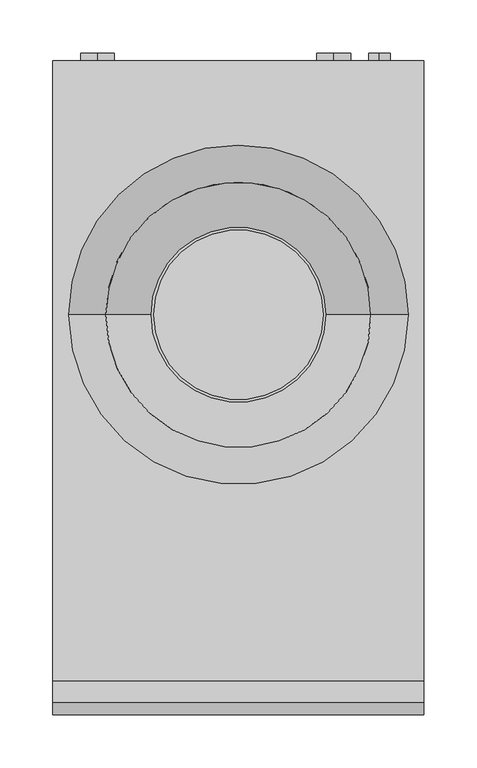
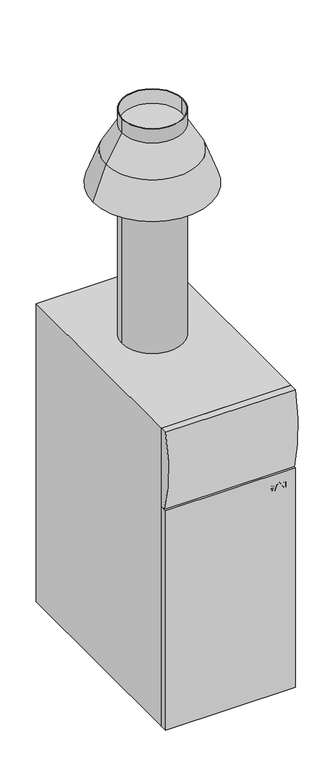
"""IFC4 building model written with IfcOpenShell, lengths in millimetres: proxy geometry, BAXI_ГазовыйКотел_Slim-iN : BAXI_Газовый котел_Slim_1.490_iN."""

import ifcopenshell
import ifcopenshell.guid

model = None  # the IFC model being written
_history = None  # IfcOwnerHistory: only IFC2X3 demands one
_inside = {}  # id of a spatial element -> (the spatial element, [elements in it])
_under = {}  # id of a project, library or spatial element -> (it, [spatial elements below it])
_declared = {}  # id of a project -> (the project, [libraries it declares])
_typed = {}  # id of a type object -> (the type object, [elements of that type])
_made_of = {}  # id of a material, layer set ... -> (it, [elements and type objects made of it])


def new_model(schema):
    """Start an empty IFC model of exactly this schema.

    Asked for "IFC4X3", IfcOpenShell would pick the latest addendum, in which some entities
    have other attributes; the version numbers below select the first issue.
    IFC2X3 requires an IfcOwnerHistory on every rooted entity: one is made here for all.
    """
    global model, _history
    if schema == "IFC4X3":
        model = ifcopenshell.file(schema_version=(4, 3, 0, 0))
    else:
        model = ifcopenshell.file(schema=schema)
    _inside.clear()
    _under.clear()
    _declared.clear()
    _typed.clear()
    _made_of.clear()
    _history = None
    if model.schema == "IFC2X3":
        org = make("IfcOrganization", Name="unknown")
        user = make(
            "IfcPersonAndOrganization",
            ThePerson=make("IfcPerson", FamilyName="unknown"),
            TheOrganization=org,
        )
        app = make(
            "IfcApplication",
            ApplicationDeveloper=org,
            Version="unknown",
            ApplicationFullName="unknown",
            ApplicationIdentifier="unknown",
        )
        _history = make(
            "IfcOwnerHistory",
            OwningUser=user,
            OwningApplication=app,
            ChangeAction="ADDED",
            CreationDate=0,
        )
    return model


def make(cls, **values):
    """One entity of the class cls with the attributes given. An attribute that is None is left unset."""
    return model.create_entity(
        cls, **{name: value for name, value in values.items() if value is not None}
    )


def rooted(cls, **values):
    """An entity with a GlobalId (a new one), such as an element, a storey or a relation."""
    return make(cls, GlobalId=ifcopenshell.guid.new(), OwnerHistory=_history, **values)


def si_unit(unit_type, name, prefix=None):
    """IfcSIUnit, for example si_unit("LENGTHUNIT", "METRE", prefix="MILLI")."""
    return make("IfcSIUnit", UnitType=unit_type, Prefix=prefix, Name=name)


def assignment(units):
    """IfcUnitAssignment: the units of a project."""
    return None if units is None else make("IfcUnitAssignment", Units=units)


def point(xyz):
    """IfcCartesianPoint."""
    return None if xyz is None else make("IfcCartesianPoint", Coordinates=xyz)


def direction(xyz):
    """IfcDirection."""
    return None if xyz is None else make("IfcDirection", DirectionRatios=xyz)


def frame(location, z_axis=None, x_axis=None):
    """IfcAxis2Placement3D, a coordinate frame: its origin and axes. An axis left out is left unset."""
    return make(
        "IfcAxis2Placement3D",
        Location=point(location),
        Axis=direction(z_axis),
        RefDirection=direction(x_axis),
    )


def frame_2d(location, x_axis=None):
    """IfcAxis2Placement2D, a coordinate frame in the plane: its origin and x axis."""
    return make(
        "IfcAxis2Placement2D", Location=point(location), RefDirection=direction(x_axis)
    )


def origin():
    """The frame at (0, 0, 0) with its axes left unset."""
    return frame((0.0, 0.0, 0.0))


def origin_with_axes():
    """The frame at (0, 0, 0) with the z axis (0, 0, 1) and the x axis (1, 0, 0) written out."""
    return frame((0.0, 0.0, 0.0), z_axis=(0.0, 0.0, 1.0), x_axis=(1.0, 0.0, 0.0))


def place(relative_to, where):
    """IfcLocalPlacement: puts the frame where relative to a parent placement (None: the world)."""
    return make(
        "IfcLocalPlacement", PlacementRelTo=relative_to, RelativePlacement=where
    )


def context(
    kind, dimensions, precision=None, world=None, true_north=None, identifier=None
):
    """IfcGeometricRepresentationContext, for example the 3D "Model" context."""
    return make(
        "IfcGeometricRepresentationContext",
        ContextIdentifier=identifier,
        ContextType=kind,
        CoordinateSpaceDimension=dimensions,
        Precision=precision,
        WorldCoordinateSystem=world,
        TrueNorth=true_north,
    )


def project(units=None, contexts=None):
    """IfcProject with its units and contexts."""
    return rooted(
        "IfcProject",
        Name="project",
        RepresentationContexts=contexts,
        UnitsInContext=assignment(units),
    )


def spatial(cls, under=None, at=None, **own):
    """A site, building, storey or space (cls), placed at a placement, below another one or the project."""
    s = rooted(cls, ObjectPlacement=at, **own)
    if under is not None:
        _under.setdefault(under.id(), (under, []))[1].append(s)
    return s


def polyline(points):
    """IfcPolyline through the points."""
    return make("IfcPolyline", Points=[point(p) for p in points])


def circle_curve(where, radius):
    """IfcCircle in the frame where."""
    return make("IfcCircle", Position=where, Radius=radius)


def trimmed(basis, trim1, trim2, sense, master):
    """IfcTrimmedCurve: the piece of a basis curve between two trims."""
    return make(
        "IfcTrimmedCurve",
        BasisCurve=basis,
        Trim1=trim1,
        Trim2=trim2,
        SenseAgreement=sense,
        MasterRepresentation=master,
    )


def segment(curve, same_sense, transition):
    """IfcCompositeCurveSegment."""
    return make(
        "IfcCompositeCurveSegment",
        Transition=transition,
        SameSense=same_sense,
        ParentCurve=curve,
    )


def composite_curve(segments, self_intersect=None):
    """IfcCompositeCurve: segments joined end to end."""
    return make("IfcCompositeCurve", Segments=segments, SelfIntersect=self_intersect)


def outline(outer, holes=None, kind="AREA"):
    """IfcArbitraryClosedProfileDef: a profile drawn as a closed curve; with holes, ...WithVoids."""
    if holes is None:
        return make("IfcArbitraryClosedProfileDef", ProfileType=kind, OuterCurve=outer)
    return make(
        "IfcArbitraryProfileDefWithVoids",
        ProfileType=kind,
        OuterCurve=outer,
        InnerCurves=holes,
    )


def extrude(swept, where, along, depth):
    """IfcExtrudedAreaSolid: the profile swept, set in the frame where, extruded along a direction by depth."""
    return make(
        "IfcExtrudedAreaSolid",
        SweptArea=swept,
        Position=where,
        ExtrudedDirection=direction(along),
        Depth=depth,
    )


def shape(context_of_items, identifier, shape_type, items):
    """IfcShapeRepresentation: the items that make up one representation, for example the "Body"."""
    return make(
        "IfcShapeRepresentation",
        ContextOfItems=context_of_items,
        RepresentationIdentifier=identifier,
        RepresentationType=shape_type,
        Items=items,
    )


def source(mapping_origin, context_of_items, identifier, shape_type, items):
    """IfcRepresentationMap: a shape defined once, which mapped items show again and again."""
    return make(
        "IfcRepresentationMap",
        MappingOrigin=mapping_origin,
        MappedRepresentation=shape(context_of_items, identifier, shape_type, items),
    )


def transform(
    local_origin,
    x_axis=None,
    y_axis=None,
    z_axis=None,
    scale=None,
    scale2=None,
    scale3=None,
    uniform=True,
):
    """IfcCartesianTransformationOperator3D, or its non-uniform kind. x_axis, y_axis, z_axis: its Axis1, 2, 3."""
    if uniform:
        return make(
            "IfcCartesianTransformationOperator3D",
            Axis1=direction(x_axis),
            Axis2=direction(y_axis),
            LocalOrigin=point(local_origin),
            Scale=scale,
            Axis3=direction(z_axis),
        )
    return make(
        "IfcCartesianTransformationOperator3DnonUniform",
        Axis1=direction(x_axis),
        Axis2=direction(y_axis),
        LocalOrigin=point(local_origin),
        Scale=scale,
        Axis3=direction(z_axis),
        Scale2=scale2,
        Scale3=scale3,
    )


def mapped(mapping_source, mapping_target):
    """IfcMappedItem: shows the shape of a source again, moved by a transform."""
    return make(
        "IfcMappedItem", MappingSource=mapping_source, MappingTarget=mapping_target
    )


def made_of(thing, what):
    """Note that an element or type object is made of a material, layer set ...; save() writes the relation."""
    if what is not None:
        _made_of.setdefault(what.id(), (what, []))[1].append(thing)
    return thing


def element(
    cls,
    number,
    at=None,
    inside=None,
    cuts=None,
    type_object=None,
    material=None,
    context=None,
    identifier="Body",
    shape_type=None,
    held_by="IfcProductDefinitionShape",
    body=None,
    shapes=None,
    **own,
):
    """One element of the class cls, such as IfcWall. Its Tag is "e" and its number.

    at: its placement. inside: the storey or other place that contains it. cuts: it is an
    opening in that element (IfcRelVoidsElement). A single representation is given by context,
    identifier, shape_type and body (its items); several are given by shapes. held_by: the class
    of the entity that holds the representations. save() writes the other relations.
    """
    e = rooted(cls, Tag="e%d" % number, ObjectPlacement=at, **own)
    if body is not None:
        shapes = [shape(context, identifier, shape_type, body)]
    if shapes is not None:
        e.Representation = make(held_by, Representations=shapes)
    if inside is not None:
        _inside.setdefault(inside.id(), (inside, []))[1].append(e)
    if cuts is not None:
        rooted(
            "IfcRelVoidsElement", RelatingBuildingElement=cuts, RelatedOpeningElement=e
        )
    if type_object is not None:
        _typed.setdefault(type_object.id(), (type_object, []))[1].append(e)
    return made_of(e, material)


def aggregate(whole, parts):
    """IfcRelAggregates: a whole, such as a stair, and the parts it consists of."""
    return rooted("IfcRelAggregates", RelatingObject=whole, RelatedObjects=parts)


def save(model, path):
    """Write the relations noted so far, then the file.

    IfcRelAggregates (storeys below a building ...), IfcRelContainedInSpatialStructure (elements
    in a storey), IfcRelDefinesByType, IfcRelAssociatesMaterial and IfcRelDeclares: one each for
    every whole, place, type object, material and project.
    """
    for whole, parts in _under.values():
        aggregate(whole, parts)
    for where, things in _inside.values():
        rooted(
            "IfcRelContainedInSpatialStructure",
            RelatedElements=things,
            RelatingStructure=where,
        )
    for kind, things in _typed.values():
        rooted("IfcRelDefinesByType", RelatedObjects=things, RelatingType=kind)
    for what, things in _made_of.values():
        rooted("IfcRelAssociatesMaterial", RelatedObjects=things, RelatingMaterial=what)
    for by, libraries in _declared.values():
        rooted("IfcRelDeclares", RelatingContext=by, RelatedDefinitions=libraries)
    model.write(path)


def plane_surface(at):
    """IfcPlane: the flat surface through the origin of the frame at, square to its z axis."""
    return make("IfcPlane", Position=at)


def cylinder_surface(at, radius):
    """IfcCylindricalSurface: all points at the distance radius from the z axis of the frame at."""
    return make("IfcCylindricalSurface", Position=at, Radius=radius)


def revolved_surface(curve, axis_point, axis_direction):
    """IfcSurfaceOfRevolution: the curve turned about the line through axis_point along axis_direction."""
    return make(
        "IfcSurfaceOfRevolution",
        SweptCurve=make("IfcArbitraryOpenProfileDef", ProfileType="CURVE", Curve=curve),
        AxisPosition=make("IfcAxis1Placement", Location=point(axis_point), Axis=direction(axis_direction)),
    )


def advanced_brep(points, edges, surfaces, faces):
    """IfcAdvancedBrep: a solid bounded by faces that lie on surfaces and meet in shared edges.

    An edge is (start, end): straight between two places in points (the first is 0);
    or (start, end, curve); or (start, end, curve, False) where it runs against its curve.
    A face is (place in surfaces, loops), or (place, loops, False) where it looks against
    its surface's normal. A loop lists edges by number (the first is 1), with a minus sign
    where the edge is run from its end to its start. The first loop is the outer one.
    """
    corners = [point(p) for p in points]
    vertices = [make("IfcVertexPoint", VertexGeometry=c) for c in corners]
    made = []
    for start, end, *more in edges:
        made.append(
            make(
                "IfcEdgeCurve",
                EdgeStart=vertices[start],
                EdgeEnd=vertices[end],
                EdgeGeometry=more[0] if more else make("IfcPolyline", Points=[corners[start], corners[end]]),
                SameSense=more[1] if len(more) > 1 else True,
            )
        )
    hull = []
    for where, loops, *sense in faces:
        bounds = []
        for j, loop in enumerate(loops):
            ring = [make("IfcOrientedEdge", EdgeElement=made[abs(k) - 1], Orientation=k > 0) for k in loop]
            bounds.append(
                make(
                    "IfcFaceOuterBound" if j == 0 else "IfcFaceBound",
                    Bound=make("IfcEdgeLoop", EdgeList=ring),
                    Orientation=True,
                )
            )
        hull.append(make("IfcAdvancedFace", Bounds=bounds, FaceSurface=surfaces[where], SameSense=sense[0] if sense else True))
    return make("IfcAdvancedBrep", Outer=make("IfcClosedShell", CfsFaces=hull))


def mechanical_equipment_23d5eb3c(model_context):
    return source(origin(), model_context, "Body", "SolidModel", [
        advanced_brep(
        [(-82.5, -350.0, 1490.0), (82.5, -350.0, 1490.0), (-80.0, -350.0, 1490.0), (80.0, -350.0, 1490.0), (-82.5, -350.0, 850.0), (82.5, -350.0, 850.0), (-80.0, -350.0, 850.0), (80.0, -350.0, 850.0), (80.0, -350.0, 1450.0), (-80.0, -350.0, 1450.0), (-80.0, -350.0, 1280.0), (80.0, -350.0, 1280.0), (-160.0, -350.0, 1280.0), (160.0, -350.0, 1280.0), (-82.5, -350.0, 1280.0), (82.5, -350.0, 1280.0), (125.0, -350.0, 1374.5309749), (-125.0, -350.0, 1374.5309749), (82.5, -350.0, 1450.0), (-82.5, -350.0, 1450.0)],
        [
            (0, 1, circle_curve(frame((0.0, -350.0, 1490.0), z_axis=(0.0, 0.0, 1.0), x_axis=(1.0, 0.0, 0.0)), 82.5)),
            (1, 0, circle_curve(frame((0.0, -350.0, 1490.0), z_axis=(0.0, 0.0, 1.0), x_axis=(1.0, 0.0, 0.0)), 82.5)),
            (2, 3, circle_curve(frame((0.0, -350.0, 1490.0), z_axis=(0.0, 0.0, -1.0), x_axis=(1.0, 0.0, 0.0)), 80.0)),
            (3, 2, circle_curve(frame((0.0, -350.0, 1490.0), z_axis=(0.0, 0.0, -1.0), x_axis=(1.0, 0.0, 0.0)), 80.0)),
            (4, 5, circle_curve(frame((0.0, -350.0, 850.0), z_axis=(0.0, 0.0, -1.0), x_axis=(1.0, 0.0, 0.0)), 82.5)),
            (5, 4, circle_curve(frame((0.0, -350.0, 850.0), z_axis=(0.0, 0.0, -1.0), x_axis=(1.0, 0.0, 0.0)), 82.5)),
            (6, 7, circle_curve(frame((0.0, -350.0, 850.0), z_axis=(0.0, 0.0, 1.0), x_axis=(1.0, 0.0, 0.0)), 80.0)),
            (7, 6, circle_curve(frame((0.0, -350.0, 850.0), z_axis=(0.0, 0.0, 1.0), x_axis=(1.0, 0.0, 0.0)), 80.0)),
            (3, 8),
            (8, 9, circle_curve(frame((0.0, -350.0, 1450.0), z_axis=(0.0, 0.0, -1.0), x_axis=(1.0, 0.0, 0.0)), 80.0)),
            (9, 2),
            (6, 10),
            (10, 11, circle_curve(frame((0.0, -350.0, 1280.0), z_axis=(0.0, 0.0, 1.0), x_axis=(1.0, 0.0, 0.0)), 80.0)),
            (11, 7),
            (9, 8, circle_curve(frame((0.0, -350.0, 1450.0), z_axis=(0.0, 0.0, -1.0), x_axis=(1.0, 0.0, 0.0)), 80.0)),
            (11, 10, circle_curve(frame((0.0, -350.0, 1280.0), z_axis=(0.0, 0.0, 1.0), x_axis=(1.0, 0.0, 0.0)), 80.0)),
            (12, 13, circle_curve(frame((0.0, -350.0, 1280.0), z_axis=(0.0, 0.0, -1.0), x_axis=(-1.0, 0.0, 0.0)), 160.0)),
            (13, 12, circle_curve(frame((0.0, -350.0, 1280.0), z_axis=(0.0, 0.0, -1.0), x_axis=(1.0, 0.0, 0.0)), 160.0)),
            (14, 15, circle_curve(frame((0.0, -350.0, 1280.0), z_axis=(0.0, 0.0, 1.0), x_axis=(1.0, 0.0, 0.0)), 82.5)),
            (15, 14, circle_curve(frame((0.0, -350.0, 1280.0), z_axis=(0.0, 0.0, 1.0), x_axis=(1.0, 0.0, 0.0)), 82.5)),
            (13, 16),
            (16, 17, circle_curve(frame((0.0, -350.0, 1374.5309749), z_axis=(0.0, 0.0, -1.0), x_axis=(1.0, 0.0, 0.0)), 125.0)),
            (17, 12),
            (17, 16, circle_curve(frame((0.0, -350.0, 1374.5309749), z_axis=(0.0, 0.0, -1.0), x_axis=(-1.0, 0.0, 0.0)), 125.0)),
            (16, 18),
            (18, 19, circle_curve(frame((0.0, -350.0, 1450.0), z_axis=(0.0, 0.0, -1.0), x_axis=(-1.0, 0.0, 0.0)), 82.5)),
            (19, 17),
            (19, 18, circle_curve(frame((0.0, -350.0, 1450.0), z_axis=(0.0, 0.0, -1.0), x_axis=(1.0, 0.0, 0.0)), 82.5)),
            (0, 19),
            (18, 1),
            (5, 15),
            (14, 4),
        ],
        [
            plane_surface(frame((80.0, -350.0, 1490.0), z_axis=(0.0, 0.0, 1.0), x_axis=(0.0, -1.0, 0.0))),
            plane_surface(frame((80.0, -350.0, 850.0), z_axis=(0.0, 0.0, -1.0), x_axis=(0.0, 1.0, 0.0))),
            revolved_surface(polyline([(80.0, -350.0, 1450.0), (80.0, -350.0, 1490.0)]), (0.0, -350.0, 850.0), (0.0, 0.0, -1.0)),
            revolved_surface(polyline([(80.0, -350.0, 850.0), (80.0, -350.0, 1280.0)]), (0.0, -350.0, 850.0), (0.0, 0.0, -1.0)),
            plane_surface(frame((0.0, -350.0, 1280.0), z_axis=(0.0, 0.0, -1.0), x_axis=(0.0, -1.0, 0.0))),
            revolved_surface(polyline([(-124.99999999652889, -350.0, 1374.5309749), (-160.0, -350.0, 1280.0)]), (0.0, -350.0, 1712.1415995), (0.0, 0.0, -1.0)),
            revolved_surface(polyline([(124.99999999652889, -350.0, 1374.5309749), (160.0, -350.0, 1280.0)]), (0.0, -350.0, 1712.1415995), (0.0, 0.0, -1.0)),
            plane_surface(frame((0.0, -350.0, 1450.0), z_axis=(0.0, 0.0, 1.0), x_axis=(0.0, -1.0, 0.0))),
            revolved_surface(polyline([(82.50000000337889, -350.0, 1450.0), (125.0, -350.0, 1374.5309749)]), (0.0, -350.0, 1596.4986958), (0.0, 0.0, -1.0)),
            cylinder_surface(frame((0.0, -350.0, 0.0), z_axis=(0.0, 0.0, 1.0), x_axis=(1.0, 0.0, 0.0)), 82.5),
        ],
        [
            (0, [[1, 2], [3, 4]]),
            (1, [[5, 6], [7, 8]]),
            (2, [[-4, 9, 10, 11]]),
            (3, [[-7, 12, 13, 14]]),
            (2, [[-3, -11, 15, -9]]),
            (3, [[-8, -14, 16, -12]]),
            (4, [[-13, -16]]),
            (4, [[17, 18], [19, 20]]),
            (5, [[-18, 21, 22, 23]]),
            (6, [[-17, -23, 24, -21]]),
            (7, [[-10, -15]]),
            (8, [[25, 26, 27, -22]]),
            (8, [[-25, -24, -27, 28]]),
            (9, [[-1, 29, -26, 30]]),
            (9, [[-6, 31, -19, 32]]),
            (9, [[-2, -30, -28, -29]]),
            (9, [[-5, -32, -20, -31]]),
        ],
    ),
        extrude(outline(composite_curve([segment(polyline([(-695.5, 627.0), (-709.6849095, 627.0)]), True, "CONTINUOUS"), segment(trimmed(circle_curve(frame_2d((-322.7028253, 748.4842102)), 405.6026957), [point((-709.6849095, 627.0))], [point((-715.396206, 850.0))], False, "CARTESIAN"), True, "CONTINUOUS"), segment(polyline([(-715.396206, 850.0), (-695.5, 850.0), (-695.5, 627.0)]), True, "CONTINUOUS")], self_intersect=False)), frame((-175.0, 0.0, 0.0), z_axis=(1.0, 0.0, 0.0), x_axis=(0.0, 1.0, 0.0)), (0.0, 0.0, 1.0), 350.0),
        extrude(outline(polyline([(175.0, -695.5), (175.0, -715.0), (-175.0, -715.0), (-175.0, -695.5), (175.0, -695.5)])), origin_with_axes(), (0.0, 0.0, 1.0), 627.0),
        extrude(outline(composite_curve([segment(trimmed(circle_curve(frame_2d((435.0, 133.0)), 10.0), [point((425.0, 133.0))], [point((445.0, 133.0))], False, "CARTESIAN"), True, "CONTINUOUS"), segment(trimmed(circle_curve(frame_2d((435.0, 133.0)), 10.0), [point((445.0, 133.0))], [point((425.0, 133.0))], False, "CARTESIAN"), True, "CONTINUOUS")], self_intersect=False)), frame((0.0, -110.0, 0.0), z_axis=(0.0, 1.0, 0.0), x_axis=(0.0, 0.0, 1.0)), (0.0, 0.0, 1.0), 7.0),
        extrude(outline(composite_curve([segment(trimmed(circle_curve(frame_2d((635.0, -133.0)), 16.0), [point((619.0, -133.0))], [point((651.0, -133.0))], False, "CARTESIAN"), True, "CONTINUOUS"), segment(trimmed(circle_curve(frame_2d((635.0, -133.0)), 16.0), [point((651.0, -133.0))], [point((619.0, -133.0))], False, "CARTESIAN"), True, "CONTINUOUS")], self_intersect=False)), frame((0.0, -110.0, 0.0), z_axis=(0.0, 1.0, 0.0), x_axis=(0.0, 0.0, 1.0)), (0.0, 0.0, 1.0), 7.0),
        extrude(outline(composite_curve([segment(trimmed(circle_curve(frame_2d((60.0, 90.0)), 16.0), [point((44.0, 90.0))], [point((76.0, 90.0))], False, "CARTESIAN"), True, "CONTINUOUS"), segment(trimmed(circle_curve(frame_2d((60.0, 90.0)), 16.0), [point((76.0, 90.0))], [point((44.0, 90.0))], False, "CARTESIAN"), True, "CONTINUOUS")], self_intersect=False)), frame((0.0, -110.0, 0.0), z_axis=(0.0, 1.0, 0.0), x_axis=(0.0, 0.0, 1.0)), (0.0, 0.0, 1.0), 7.0),
        extrude(outline(polyline([(175.0, -110.0), (175.0, -695.5), (-175.0, -695.5), (-175.0, -110.0), (175.0, -110.0)])), origin_with_axes(), (0.0, 0.0, 1.0), 850.0),
        extrude(outline(polyline([(596.3910755, 105.6468806), (581.0871845, 105.6468806), (581.0871845, 110.8772283), (581.1896659, 114.6196977), (581.9127292, 116.7015886), (583.4803152, 118.033847), (585.5014764, 118.5215826), (587.7978192, 117.8421688), (589.1794205, 115.8988175), (590.5344525, 117.4607102), (592.5157598, 118.0357448), (594.3167758, 117.5537026), (595.6034868, 116.3485971), (596.2392511, 114.7088945), (596.3910755, 111.9286117), (596.3910755, 105.6468806)]), holes=[polyline([(593.7189675, 108.5619075), (593.7189675, 110.5128499), (590.3674457, 113.2532788), (590.3181028, 110.7861337), (590.3181028, 108.5619075), (593.7189675, 108.5619075)]), polyline([(587.6459949, 108.5619075), (587.6459949, 111.2529935), (583.850387, 113.928897), (583.7592924, 111.6439411), (583.7592924, 108.5619075), (587.6459949, 108.5619075)])]), frame((0.0, -715.0, 0.0), z_axis=(0.0, 1.0, 0.0), x_axis=(0.0, 0.0, 1.0)), (0.0, 0.0, 1.0), 5.0),
        extrude(outline(polyline([(581.0871845, 133.8254736), (596.3910755, 128.1852003), (596.3910755, 125.080393), (581.0871845, 119.4932582), (581.0871845, 122.5980655), (584.4880491, 123.7822951), (584.4880491, 129.5630059), (581.0871845, 130.762418), (581.0871845, 133.8254736)]), holes=[polyline([(587.1601571, 128.6292864), (587.1601571, 124.7160147), (592.7472919, 126.6593659), (587.1601571, 128.6292864)])]), frame((0.0, -715.0, 0.0), z_axis=(0.0, 1.0, 0.0), x_axis=(0.0, 0.0, 1.0)), (0.0, 0.0, 1.0), 5.0),
        extrude(outline(polyline([(581.0871845, 133.946933), (581.0871845, 137.3553889), (586.4921301, 140.8701218), (581.0871845, 144.3848547), (581.0871845, 147.7933106), (589.1110995, 142.5743498), (596.3910755, 147.3074728), (596.3910755, 143.8990169), (591.7338646, 140.8701218), (596.3910755, 137.8412267), (596.3910755, 134.4327708), (589.1110995, 139.1658939), (581.0871845, 133.946933)])), frame((0.0, -715.0, 0.0), z_axis=(0.0, 1.0, 0.0), x_axis=(0.0, 0.0, 1.0)), (0.0, 0.0, 1.0), 5.0),
        extrude(outline(polyline([(149.3722835, -710.0), (152.2873103, -710.0), (152.2873103, -715.0), (149.3722835, -715.0), (149.3722835, -710.0)])), frame((0.0, 0.0, 581.0871845), z_axis=(0.0, 0.0, 1.0), x_axis=(1.0, 0.0, 0.0)), (0.0, 0.0, 1.0), 15.303891),
    ])


if __name__ == "__main__":
    model = new_model("IFC4")
    model_context = context("Model", 3, world=origin())
    ifc_project = project(units=[si_unit("LENGTHUNIT", "METRE", prefix="MILLI")], contexts=[model_context])
    site = spatial("IfcSite", under=ifc_project)
    building = spatial("IfcBuilding", under=site)
    placement = place(None, origin())
    mechanical_equipment_shape = mechanical_equipment_23d5eb3c(model_context)
    element("IfcBuildingElementProxy", 1, Name="BAXI_ГазовыйКотел_Slim-iN : BAXI_Газовый котел_Slim_1.490_iN", ObjectType="BAXI_ГазовыйКотел_Slim-iN : BAXI_Газовый котел_Slim_1.490_iN", at=placement, inside=building, context=model_context, shape_type="MappedRepresentation", body=[
        mapped(mechanical_equipment_shape, transform((0.0, 0.0, 0.0), x_axis=(1.0, 0.0, 0.0), y_axis=(0.0, 1.0, 0.0), z_axis=(0.0, 0.0, 1.0))),
    ])
    save(model, "model.ifc")
